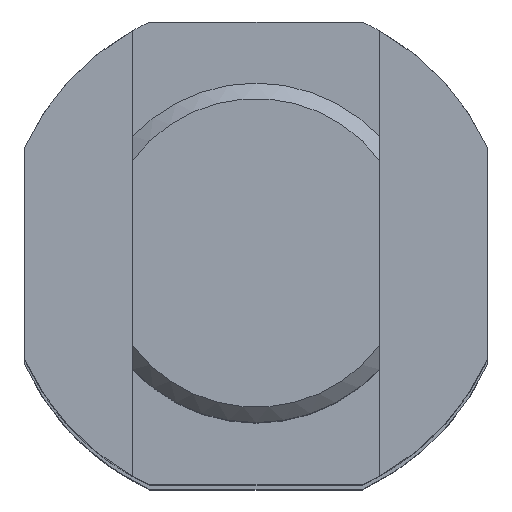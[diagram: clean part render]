
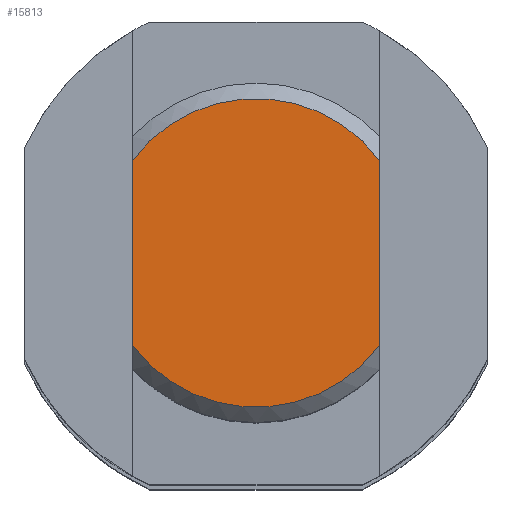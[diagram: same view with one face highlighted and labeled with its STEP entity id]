
A CAD part, top view. The second image highlights one B-rep face of the part: STEP entity #15813.
In plain terms, the highlighted planar face has unit normal (0, 0, 1) as drawn and (1, 0, 0) by its records, which use the part's own axes.
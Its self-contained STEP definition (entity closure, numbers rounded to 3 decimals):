
#725 = VERTEX_POINT ( 'NONE', #9577 ) ;
#858 = CIRCLE ( 'NONE', #9180, 10. ) ;
#874 = VECTOR ( 'NONE', #15795, 1000. ) ;
#922 = EDGE_CURVE ( 'NONE', #14778, #9189, #9442, .T. ) ;
#984 = DIRECTION ( 'NONE',  ( 0., 0., 1. ) ) ;
#2447 = DIRECTION ( 'NONE',  ( 1., 0., 0. ) ) ;
#2820 = CARTESIAN_POINT ( 'NONE',  ( 45.5, -6., 8. ) ) ;
#2862 = CARTESIAN_POINT ( 'NONE',  ( 45.5, 11., 8. ) ) ;
#3261 = DIRECTION ( 'NONE',  ( 0., 1., 0. ) ) ;
#5373 = VERTEX_POINT ( 'NONE', #17174 ) ;
#5958 = CARTESIAN_POINT ( 'NONE',  ( 45.5, 0., 0. ) ) ;
#6223 = DIRECTION ( 'NONE',  ( 0., 0., 1. ) ) ;
#6294 = AXIS2_PLACEMENT_3D ( 'NONE', #10996, #7909, #6223 ) ;
#6604 = EDGE_CURVE ( 'NONE', #725, #5373, #17552, .T. ) ;
#6970 = FACE_OUTER_BOUND ( 'NONE', #12118, .T. ) ;
#7042 = EDGE_CURVE ( 'NONE', #5373, #14778, #10317, .T. ) ;
#7909 = DIRECTION ( 'NONE',  ( 1., 0., 0. ) ) ;
#8243 = PLANE ( 'NONE',  #18670 ) ;
#8329 = EDGE_CURVE ( 'NONE', #9189, #725, #858, .T. ) ;
#8331 = VECTOR ( 'NONE', #3261, 1000. ) ;
#8776 = CARTESIAN_POINT ( 'NONE',  ( 45.5, 6., 8. ) ) ;
#9180 = AXIS2_PLACEMENT_3D ( 'NONE', #5958, #2447, #984 ) ;
#9189 = VERTEX_POINT ( 'NONE', #2820 ) ;
#9442 = LINE ( 'NONE', #2862, #874 ) ;
#9577 = CARTESIAN_POINT ( 'NONE',  ( 45.5, -6., -8. ) ) ;
#10317 = CIRCLE ( 'NONE', #6294, 10. ) ;
#10899 = ORIENTED_EDGE ( 'NONE', *, *, #8329, .T. ) ;
#10996 = CARTESIAN_POINT ( 'NONE',  ( 45.5, 0., 0. ) ) ;
#11071 = CARTESIAN_POINT ( 'NONE',  ( 45.5, 11., -8. ) ) ;
#11445 = DIRECTION ( 'NONE',  ( -1., 0., 0. ) ) ;
#11699 = ORIENTED_EDGE ( 'NONE', *, *, #6604, .T. ) ;
#12118 = EDGE_LOOP ( 'NONE', ( #11699, #19833, #19945, #10899 ) ) ;
#13318 = DIRECTION ( 'NONE',  ( 0., 0., 1. ) ) ;
#14778 = VERTEX_POINT ( 'NONE', #8776 ) ;
#14898 = CARTESIAN_POINT ( 'NONE',  ( 45.5, 11., 0. ) ) ;
#15795 = DIRECTION ( 'NONE',  ( 0., -1., 0. ) ) ;
#15813 = ADVANCED_FACE ( 'NONE', ( #6970 ), #8243, .F. ) ;
#17174 = CARTESIAN_POINT ( 'NONE',  ( 45.5, 6., -8. ) ) ;
#17552 = LINE ( 'NONE', #11071, #8331 ) ;
#18670 = AXIS2_PLACEMENT_3D ( 'NONE', #14898, #11445, #13318 ) ;
#19833 = ORIENTED_EDGE ( 'NONE', *, *, #7042, .T. ) ;
#19945 = ORIENTED_EDGE ( 'NONE', *, *, #922, .T. ) ;
